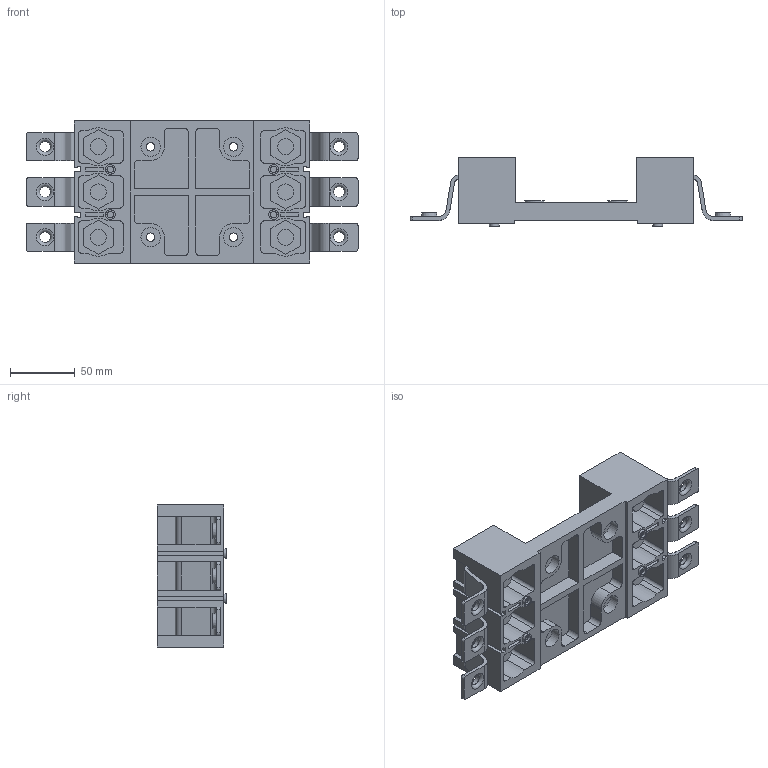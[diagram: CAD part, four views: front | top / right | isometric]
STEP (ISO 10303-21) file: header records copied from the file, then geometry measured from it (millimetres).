
FILE_DESCRIPTION(/* description */ (''),/* implementation_level */ '2;1');
FILE_NAME(/* name */ '250-3P插入前.stp',/* time_stamp */ '2018-06-13T13:47:35+08:00',/* author */ (''),/* organization */ (''),/* preprocessor_version */ 'ST-DEVELOPER v16',/* originating_system */ 'SIEMENS PLM Software NX 10.0',/* authorisation */ '');
FILE_SCHEMA (('AUTOMOTIVE_DESIGN { 1 0 10303 214 3 1 1 1 }'));
Length unit declared in the file: millimetre
Products named in the file (1): boj26D43AE58wjc
Bounding box: 257 x 53.8 x 110 mm (x, y, z)
Volume: 435956.5 mm3; surface area: 140449.2 mm2
Topology: 1 solids, 1 shells, 484 faces, 1252 edges, 829 vertices
Faces by surface type: plane 340, cylinder 132, cone 6, torus 6
Full cylindrical faces by diameter (mm): 5.1 x4, 6.6 x4, 7.5 x4, 8.5 x6, 12.5 x6, 15 x8
Entity records: 14504 total; most frequent: CARTESIAN_POINT 2503, DIRECTION 2476, ORIENTED_EDGE 2396, EDGE_CURVE 1198, LINE 892, VECTOR 892, VERTEX_POINT 818, AXIS2_PLACEMENT_3D 792
